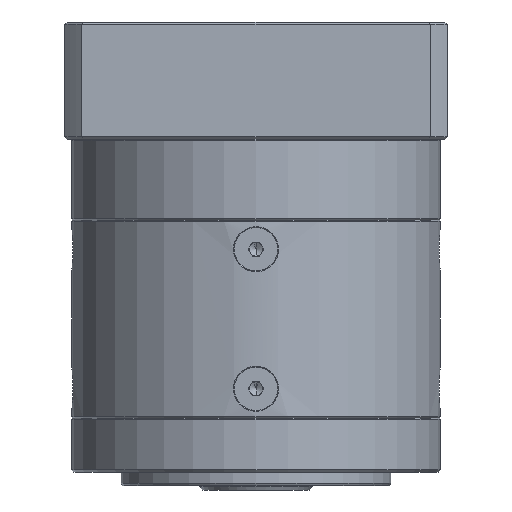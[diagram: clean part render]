
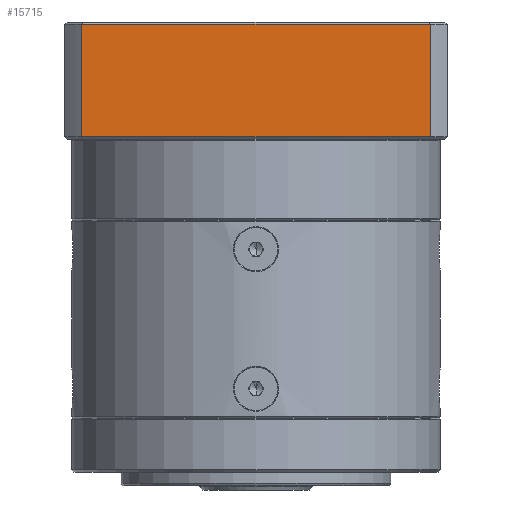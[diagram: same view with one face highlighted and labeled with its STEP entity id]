
A CAD part, front view. The second image highlights one B-rep face of the part: STEP entity #15715.
In plain terms, the highlighted planar face has unit normal (0, -1, 0).
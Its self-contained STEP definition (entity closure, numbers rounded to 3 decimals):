
#716 = DIRECTION ( 'NONE',  ( -1., 0., 0. ) ) ;
#2728 = VERTEX_POINT ( 'NONE', #83533 ) ;
#15347 = CARTESIAN_POINT ( 'NONE',  ( -57.74, -21.694, 20.785 ) ) ;
#15715 = ADVANCED_FACE ( 'NONE', ( #17019 ), #84557, .F. ) ;
#17019 = FACE_OUTER_BOUND ( 'NONE', #112021, .T. ) ;
#17377 = EDGE_CURVE ( 'NONE', #59004, #108717, #92636, .T. ) ;
#17722 = VECTOR ( 'NONE', #58779, 1000. ) ;
#20749 = CARTESIAN_POINT ( 'NONE',  ( -135.2, -21.694, 46.285 ) ) ;
#21335 = CARTESIAN_POINT ( 'NONE',  ( -57.74, -21.694, 46.285 ) ) ;
#24805 = DIRECTION ( 'NONE',  ( 1., 0., 0. ) ) ;
#30254 = DIRECTION ( 'NONE',  ( 0., 0., 1. ) ) ;
#31249 = CARTESIAN_POINT ( 'NONE',  ( -57.74, -21.694, 45.785 ) ) ;
#33116 = EDGE_CURVE ( 'NONE', #2728, #108717, #48238, .T. ) ;
#35021 = VECTOR ( 'NONE', #30254, 1000. ) ;
#39142 = ORIENTED_EDGE ( 'NONE', *, *, #70082, .F. ) ;
#42859 = AXIS2_PLACEMENT_3D ( 'NONE', #113217, #57175, #716 ) ;
#47024 = VERTEX_POINT ( 'NONE', #50482 ) ;
#48238 = LINE ( 'NONE', #15347, #95150 ) ;
#49126 = VECTOR ( 'NONE', #52655, 1000. ) ;
#50482 = CARTESIAN_POINT ( 'NONE',  ( -135.2, -21.694, 45.785 ) ) ;
#51082 = ORIENTED_EDGE ( 'NONE', *, *, #72030, .F. ) ;
#52655 = DIRECTION ( 'NONE',  ( 1., 0., 0. ) ) ;
#53078 = ORIENTED_EDGE ( 'NONE', *, *, #17377, .F. ) ;
#57175 = DIRECTION ( 'NONE',  ( 0., 1., 0. ) ) ;
#58779 = DIRECTION ( 'NONE',  ( 0., 0., -1. ) ) ;
#59004 = VERTEX_POINT ( 'NONE', #31249 ) ;
#67156 = ORIENTED_EDGE ( 'NONE', *, *, #33116, .T. ) ;
#70082 = EDGE_CURVE ( 'NONE', #47024, #59004, #98989, .T. ) ;
#70410 = CARTESIAN_POINT ( 'NONE',  ( -57.74, -21.694, 20.785 ) ) ;
#72030 = EDGE_CURVE ( 'NONE', #2728, #47024, #109746, .T. ) ;
#83533 = CARTESIAN_POINT ( 'NONE',  ( -135.2, -21.694, 20.785 ) ) ;
#84557 = PLANE ( 'NONE',  #42859 ) ;
#92636 = LINE ( 'NONE', #21335, #17722 ) ;
#95150 = VECTOR ( 'NONE', #24805, 1000. ) ;
#98989 = LINE ( 'NONE', #108732, #49126 ) ;
#108717 = VERTEX_POINT ( 'NONE', #70410 ) ;
#108732 = CARTESIAN_POINT ( 'NONE',  ( -57.74, -21.694, 45.785 ) ) ;
#109746 = LINE ( 'NONE', #20749, #35021 ) ;
#112021 = EDGE_LOOP ( 'NONE', ( #67156, #53078, #39142, #51082 ) ) ;
#113217 = CARTESIAN_POINT ( 'NONE',  ( -57.74, -21.694, 46.285 ) ) ;
